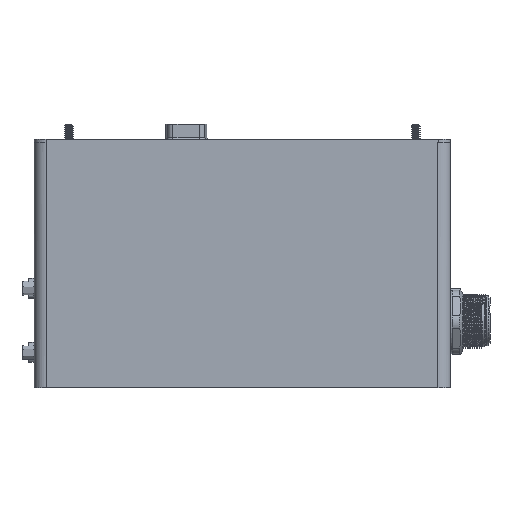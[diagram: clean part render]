
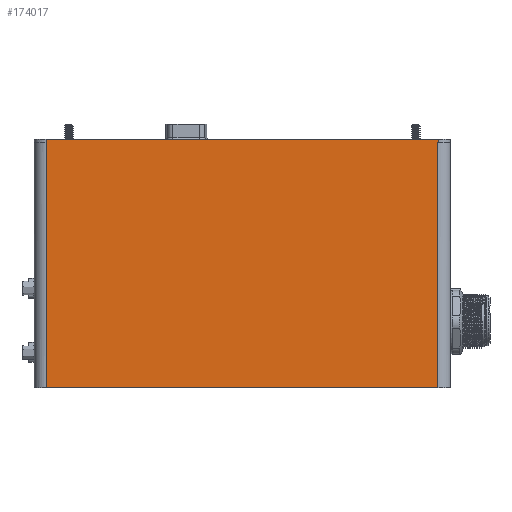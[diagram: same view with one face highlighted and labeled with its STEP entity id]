
A CAD part, front view. The second image highlights one B-rep face of the part: STEP entity #174017.
In plain terms, the highlighted planar face has unit normal (0, -1, 0).
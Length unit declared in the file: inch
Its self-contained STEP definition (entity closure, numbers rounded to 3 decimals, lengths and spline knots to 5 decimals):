
#923 = DIRECTION ( 'NONE',  ( 0., 0., 1. ) ) ;
#14027 = CARTESIAN_POINT ( 'NONE',  ( -3.05315, -2.07, 1.8895 ) ) ;
#18027 = EDGE_CURVE ( 'NONE', #49741, #100835, #141287, .T. ) ;
#19583 = VERTEX_POINT ( 'NONE', #133310 ) ;
#22570 = EDGE_CURVE ( 'NONE', #100835, #100870, #119372, .T. ) ;
#23450 = EDGE_CURVE ( 'NONE', #204262, #224578, #246611, .T. ) ;
#32153 = CARTESIAN_POINT ( 'NONE',  ( 3.0625, -2.07, 1.8895 ) ) ;
#32655 = DIRECTION ( 'NONE',  ( -1., 0., 0. ) ) ;
#35818 = CARTESIAN_POINT ( 'NONE',  ( -3.06249, -2.06989, 1.8895 ) ) ;
#39459 = EDGE_CURVE ( 'NONE', #117743, #19583, #60622, .T. ) ;
#42100 = CARTESIAN_POINT ( 'NONE',  ( 3.06249, -2.06989, 1.8895 ) ) ;
#42819 = ORIENTED_EDGE ( 'NONE', *, *, #18027, .T. ) ;
#49741 = VERTEX_POINT ( 'NONE', #133009 ) ;
#55297 = DIRECTION ( 'NONE',  ( 0., 0., 1. ) ) ;
#56759 = CARTESIAN_POINT ( 'NONE',  ( -3.0625, -2.07, 1.9375 ) ) ;
#60622 = LINE ( 'NONE', #121863, #254351 ) ;
#62649 = ORIENTED_EDGE ( 'NONE', *, *, #22570, .T. ) ;
#63992 = CARTESIAN_POINT ( 'NONE',  ( 3.05627, -2.07, 1.8895 ) ) ;
#70435 = CARTESIAN_POINT ( 'NONE',  ( -3.0625, -2.07, 1.8895 ) ) ;
#71783 = VECTOR ( 'NONE', #55297, 39.37008 ) ;
#75297 = CARTESIAN_POINT ( 'NONE',  ( 3.05315, -2.07, 1.8895 ) ) ;
#78113 = CARTESIAN_POINT ( 'NONE',  ( -3.05938, -2.07, 1.8895 ) ) ;
#80661 = CARTESIAN_POINT ( 'NONE',  ( 3.25, -2.07, -1.9375 ) ) ;
#84011 = CARTESIAN_POINT ( 'NONE',  ( 3.25, -2.07, -1.8895 ) ) ;
#89380 = ORIENTED_EDGE ( 'NONE', *, *, #133331, .T. ) ;
#90491 = EDGE_LOOP ( 'NONE', ( #124222, #42819, #62649, #93726, #165239, #273481, #89380, #189996 ) ) ;
#93726 = ORIENTED_EDGE ( 'NONE', *, *, #96726, .T. ) ;
#95688 = CARTESIAN_POINT ( 'NONE',  ( 3.06249, -2.06989, 1.8895 ) ) ;
#96726 = EDGE_CURVE ( 'NONE', #100870, #19583, #101986, .T. ) ;
#100835 = VERTEX_POINT ( 'NONE', #75297 ) ;
#100870 = VERTEX_POINT ( 'NONE', #95688 ) ;
#101986 = LINE ( 'NONE', #32153, #116151 ) ;
#103300 = CARTESIAN_POINT ( 'NONE',  ( 3.05938, -2.07, 1.8895 ) ) ;
#104250 = DIRECTION ( 'NONE',  ( 1., 0., 0. ) ) ;
#105805 = VECTOR ( 'NONE', #113894, 39.37008 ) ;
#105882 = FACE_OUTER_BOUND ( 'NONE', #90491, .T. ) ;
#110302 = CARTESIAN_POINT ( 'NONE',  ( -3.05315, -2.07, 1.8895 ) ) ;
#111039 = CARTESIAN_POINT ( 'NONE',  ( -3.05315, -2.07, -1.8895 ) ) ;
#113894 = DIRECTION ( 'NONE',  ( 0., 0., -1. ) ) ;
#116151 = VECTOR ( 'NONE', #215653, 39.37008 ) ;
#117743 = VERTEX_POINT ( 'NONE', #56759 ) ;
#119372 = B_SPLINE_CURVE_WITH_KNOTS ( 'NONE', 3,
 ( #263691, #63992, #103300, #42100 ),
 .UNSPECIFIED., .F., .F.,
 ( 4, 4 ),
 ( 0.99847, 1. ),
 .UNSPECIFIED. ) ;
#121863 = CARTESIAN_POINT ( 'NONE',  ( -3.25, -2.07, 1.9375 ) ) ;
#124222 = ORIENTED_EDGE ( 'NONE', *, *, #187490, .F. ) ;
#124714 = CARTESIAN_POINT ( 'NONE',  ( -3.05627, -2.07, 1.8895 ) ) ;
#133009 = CARTESIAN_POINT ( 'NONE',  ( 3.05315, -2.07, -1.9375 ) ) ;
#133310 = CARTESIAN_POINT ( 'NONE',  ( 3.0625, -2.07, 1.9375 ) ) ;
#133331 = EDGE_CURVE ( 'NONE', #157215, #204262, #161863, .T. ) ;
#141287 = LINE ( 'NONE', #231663, #71783 ) ;
#143800 = VECTOR ( 'NONE', #203118, 39.37008 ) ;
#145698 = LINE ( 'NONE', #70435, #143800 ) ;
#155271 = CARTESIAN_POINT ( 'NONE',  ( -3.05315, -2.07, -1.9375 ) ) ;
#157215 = VERTEX_POINT ( 'NONE', #256762 ) ;
#161863 = B_SPLINE_CURVE_WITH_KNOTS ( 'NONE', 3,
 ( #35818, #78113, #124714, #14027 ),
 .UNSPECIFIED., .F., .F.,
 ( 4, 4 ),
 ( 0., 0.00153 ),
 .UNSPECIFIED. ) ;
#165239 = ORIENTED_EDGE ( 'NONE', *, *, #39459, .F. ) ;
#174017 = ADVANCED_FACE ( 'NONE', ( #105882 ), #254703, .T. ) ;
#187490 = EDGE_CURVE ( 'NONE', #49741, #224578, #236678, .T. ) ;
#189996 = ORIENTED_EDGE ( 'NONE', *, *, #23450, .T. ) ;
#199173 = DIRECTION ( 'NONE',  ( 0., -1., 0. ) ) ;
#203118 = DIRECTION ( 'NONE',  ( 0., 0., -1. ) ) ;
#204262 = VERTEX_POINT ( 'NONE', #110302 ) ;
#215653 = DIRECTION ( 'NONE',  ( 0., 0., 1. ) ) ;
#224578 = VERTEX_POINT ( 'NONE', #155271 ) ;
#231663 = CARTESIAN_POINT ( 'NONE',  ( 3.05315, -2.07, -1.8895 ) ) ;
#236312 = VECTOR ( 'NONE', #32655, 39.37008 ) ;
#236678 = LINE ( 'NONE', #80661, #236312 ) ;
#246611 = LINE ( 'NONE', #111039, #105805 ) ;
#254351 = VECTOR ( 'NONE', #104250, 39.37008 ) ;
#254703 = PLANE ( 'NONE',  #255940 ) ;
#255940 = AXIS2_PLACEMENT_3D ( 'NONE', #84011, #199173, #923 ) ;
#256762 = CARTESIAN_POINT ( 'NONE',  ( -3.06249, -2.06989, 1.8895 ) ) ;
#263691 = CARTESIAN_POINT ( 'NONE',  ( 3.05315, -2.07, 1.8895 ) ) ;
#273481 = ORIENTED_EDGE ( 'NONE', *, *, #286021, .T. ) ;
#286021 = EDGE_CURVE ( 'NONE', #117743, #157215, #145698, .T. ) ;
